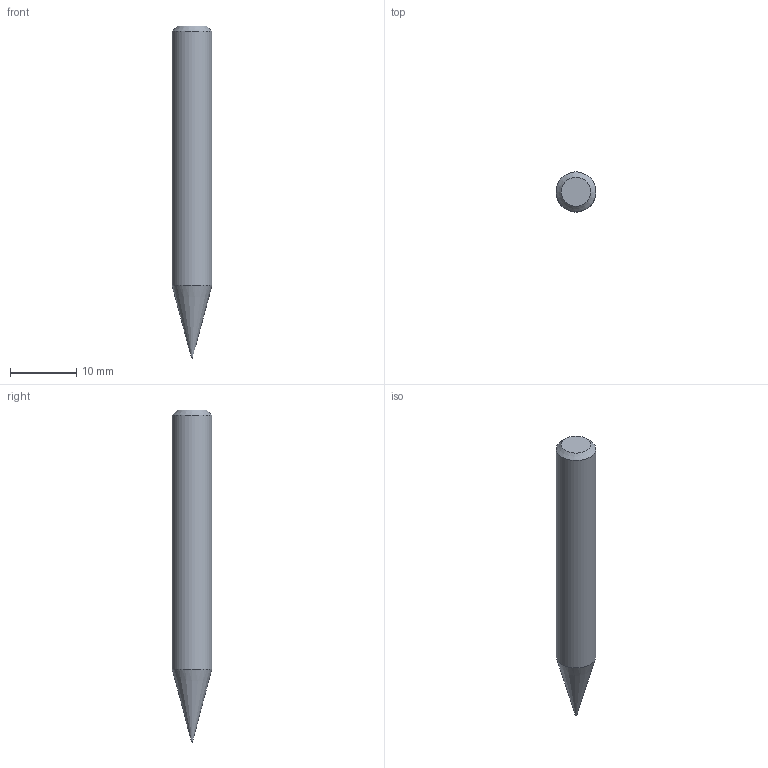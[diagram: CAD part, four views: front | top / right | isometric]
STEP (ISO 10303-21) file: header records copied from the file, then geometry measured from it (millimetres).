
FILE_DESCRIPTION((''),'2;1');
FILE_NAME('C:\Users\nsx150\AppData\Local\Temp\Mastercam 2021\8KJEN3TMUH\TEMP.step','2021-05-21T11:23:32',(''),(''),'STEP Write','Mastercam 2021 ... CNC Software, Inc.','');
FILE_SCHEMA(('AUTOMOTIVE_DESIGN'));
Length unit declared in the file: millimetre
Products named in the file (1): None
Bounding box: 6 x 6 x 50 mm (x, y, z)
Volume: 1204.3 mm3; surface area: 864.1 mm2
Topology: 2 solids, 2 shells, 8 faces, 12 edges, 7 vertices
Faces by surface type: plane 3, cylinder 2, cone 2, sphere 1
Full cylindrical faces by diameter (mm): 0.2 x1, 6 x1
Entity records: 190 total; most frequent: DIRECTION 32, CARTESIAN_POINT 22, AXIS2_PLACEMENT_3D 16, ORIENTED_EDGE 12, EDGE_LOOP 12, STYLED_ITEM 11, ADVANCED_FACE 8, VERTEX_POINT 6
